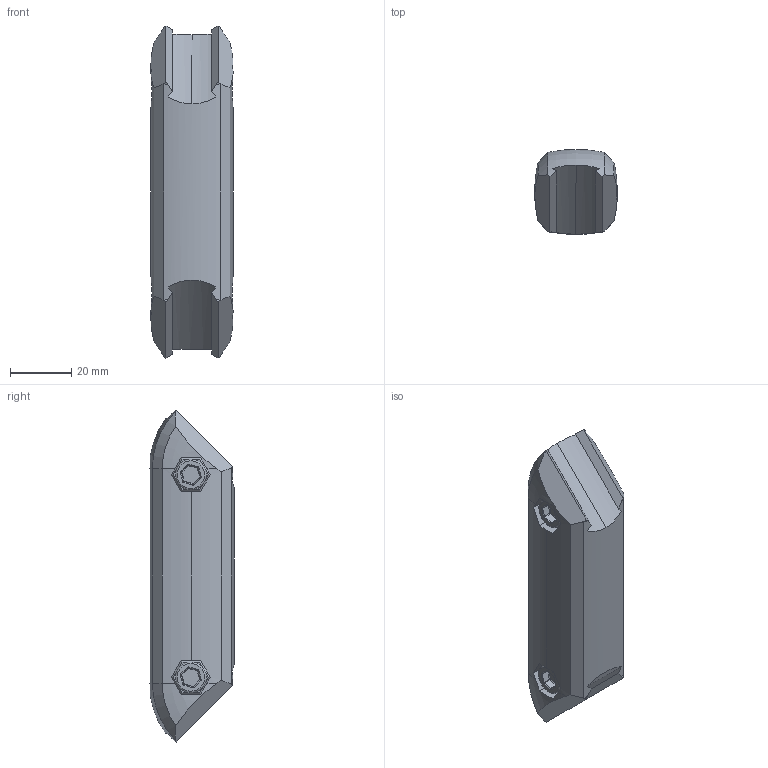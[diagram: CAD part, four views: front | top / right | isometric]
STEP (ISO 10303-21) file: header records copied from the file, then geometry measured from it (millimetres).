
FILE_DESCRIPTION (( 'STEP AP203' ), '1' );
FILE_NAME ('1104.STEP', '2016-05-29T11:41:19', ( 'RosInstal-MKM' ), ( '' ), 'SwSTEP 2.0', 'SolidWorks 2014', '' );
FILE_SCHEMA (( 'CONFIG_CONTROL_DESIGN' ));
Length unit declared in the file: millimetre
Products named in the file (4): 櫻蠉錪8; ãàéêà08; 鎔艜08; 1104
Assembly tree (5 placements, depth 2):
  1104
    櫻蠉錪8
    ãàéêà08  x2
    鎔艜08  x2
Bounding box: 26.85 x 27.55 x 108.22 mm (x, y, z)
Volume: 53755.3 mm3; surface area: 13894 mm2
Topology: 5 solids, 5 shells, 202 faces, 484 edges, 280 vertices
Faces by surface type: plane 88, cylinder 58, torus 32, cone 12, sphere 12
Entity records: 4387 total; most frequent: CARTESIAN_POINT 996, ORIENTED_EDGE 632, DIRECTION 609, EDGE_CURVE 316, AXIS2_PLACEMENT_3D 237, VERTEX_POINT 192, VECTOR 135, LINE 135
